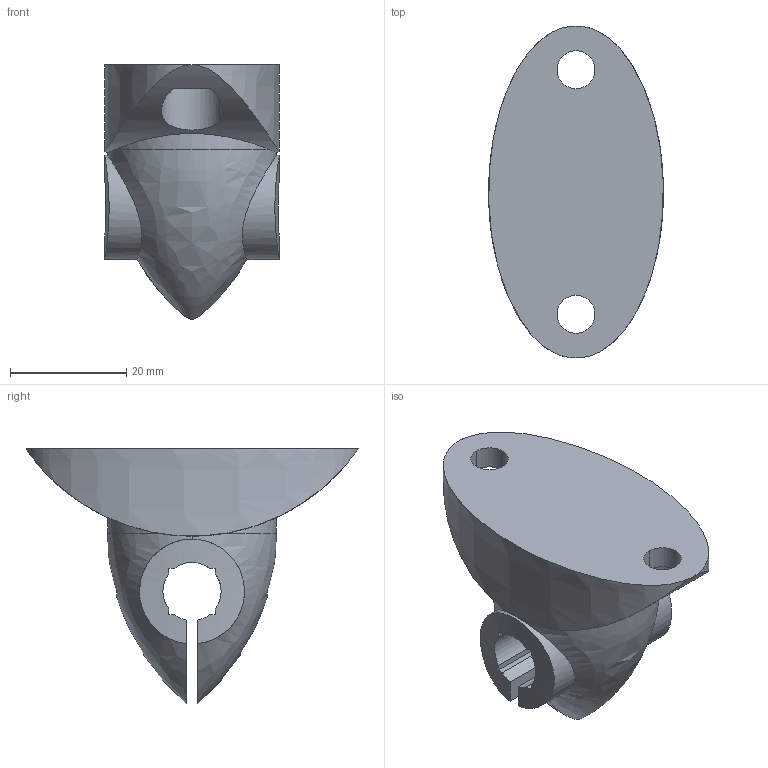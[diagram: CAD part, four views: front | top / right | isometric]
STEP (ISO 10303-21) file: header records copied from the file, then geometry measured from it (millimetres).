
FILE_DESCRIPTION((''),'2;1');
FILE_NAME('MOTI','2002-12-27T',('Lipro doo'),('Lipro d.o.o.'),'PRO/ENGINEER BY PARAMETRIC TECHNOLOGY CORPORATION, 2001150','PRO/ENGINEER BY PARAMETRIC TECHNOLOGY CORPORATION, 2001150','');
FILE_SCHEMA(('CONFIG_CONTROL_DESIGN'));
Length unit declared in the file: millimetre
Products named in the file (1): MOTI
Bounding box: 30 x 57 x 43.68 mm (x, y, z)
Volume: 24825.8 mm3; surface area: 7367.8 mm2
Topology: 1 solids, 1 shells, 35 faces, 88 edges, 58 vertices
Faces by surface type: cylinder 16, plane 13, extrusion 4, bspline 2
Entity records: 1745 total; most frequent: CARTESIAN_POINT 924, ORIENTED_EDGE 176, DIRECTION 126, EDGE_CURVE 88, VERTEX_POINT 58, AXIS2_PLACEMENT_3D 43, EDGE_LOOP 42, B_SPLINE_CURVE_WITH_KNOTS 42
